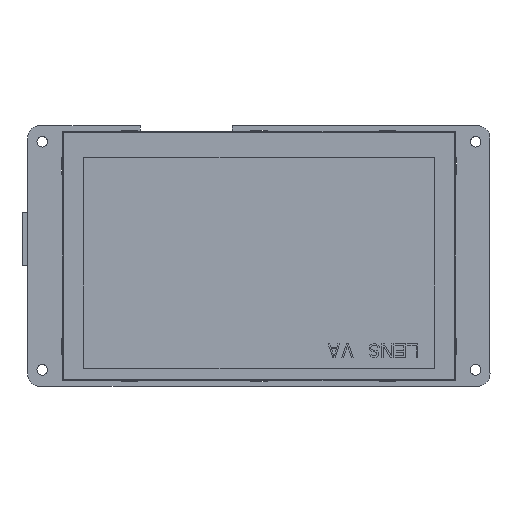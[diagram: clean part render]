
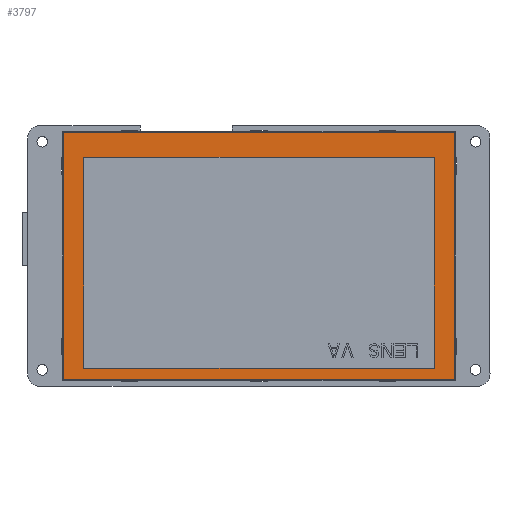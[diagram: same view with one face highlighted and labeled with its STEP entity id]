
A CAD part, front view. The second image highlights one B-rep face of the part: STEP entity #3797.
In plain terms, the highlighted planar face has unit normal (0, -1, 0) as drawn and (0, 1, 0) by its records, which use the part's own axes.
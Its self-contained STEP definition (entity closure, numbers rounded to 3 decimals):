
#2008=DIRECTION('',(0.,0.,1.));
#2009=VECTOR('',#2008,76.69);
#2010=CARTESIAN_POINT('',(-60.7,2.03,-38.345));
#2011=LINE('',#2010,#2009);
#2012=DIRECTION('',(-1.,0.,0.));
#2013=VECTOR('',#2012,121.4);
#2014=CARTESIAN_POINT('',(60.7,2.03,-38.345));
#2015=LINE('',#2014,#2013);
#2016=DIRECTION('',(0.,0.,-1.));
#2017=VECTOR('',#2016,76.69);
#2018=CARTESIAN_POINT('',(60.7,2.03,38.345));
#2019=LINE('',#2018,#2017);
#2020=DIRECTION('',(1.,0.,0.));
#2021=VECTOR('',#2020,121.4);
#2022=CARTESIAN_POINT('',(-60.7,2.03,38.345));
#2023=LINE('',#2022,#2021);
#2024=DIRECTION('',(0.,0.,1.));
#2025=VECTOR('',#2024,65.4);
#2026=CARTESIAN_POINT('',(-54.35,2.03,-34.745));
#2027=LINE('',#2026,#2025);
#2028=DIRECTION('',(1.,0.,0.));
#2029=VECTOR('',#2028,108.6);
#2030=CARTESIAN_POINT('',(-54.35,2.03,30.655));
#2031=LINE('',#2030,#2029);
#2032=DIRECTION('',(0.,0.,-1.));
#2033=VECTOR('',#2032,65.4);
#2034=CARTESIAN_POINT('',(54.25,2.03,30.655));
#2035=LINE('',#2034,#2033);
#2036=DIRECTION('',(-1.,0.,0.));
#2037=VECTOR('',#2036,108.6);
#2038=CARTESIAN_POINT('',(54.25,2.03,-34.745));
#2039=LINE('',#2038,#2037);
#3280=CARTESIAN_POINT('',(-60.7,2.03,-38.345));
#3281=CARTESIAN_POINT('',(-60.7,2.03,38.345));
#3282=VERTEX_POINT('',#3280);
#3283=VERTEX_POINT('',#3281);
#3284=CARTESIAN_POINT('',(60.7,2.03,38.345));
#3285=VERTEX_POINT('',#3284);
#3286=CARTESIAN_POINT('',(60.7,2.03,-38.345));
#3287=VERTEX_POINT('',#3286);
#3496=CARTESIAN_POINT('',(-54.35,2.03,-34.745));
#3497=CARTESIAN_POINT('',(-54.35,2.03,30.655));
#3498=VERTEX_POINT('',#3496);
#3499=VERTEX_POINT('',#3497);
#3500=CARTESIAN_POINT('',(54.25,2.03,30.655));
#3501=VERTEX_POINT('',#3500);
#3502=CARTESIAN_POINT('',(54.25,2.03,-34.745));
#3503=VERTEX_POINT('',#3502);
#3776=CARTESIAN_POINT('',(0.,2.03,0.));
#3777=DIRECTION('',(0.,1.,0.));
#3778=DIRECTION('',(1.,0.,0.));
#3779=AXIS2_PLACEMENT_3D('',#3776,#3777,#3778);
#3780=PLANE('',#3779);
#3781=ORIENTED_EDGE('',*,*,#3728,.F.);
#3782=ORIENTED_EDGE('',*,*,#3743,.F.);
#3783=ORIENTED_EDGE('',*,*,#3757,.F.);
#3784=ORIENTED_EDGE('',*,*,#3770,.F.);
#3785=EDGE_LOOP('',(#3781,#3782,#3783,#3784));
#3786=FACE_OUTER_BOUND('',#3785,.F.);
#3788=ORIENTED_EDGE('',*,*,#3787,.T.);
#3790=ORIENTED_EDGE('',*,*,#3789,.T.);
#3792=ORIENTED_EDGE('',*,*,#3791,.T.);
#3794=ORIENTED_EDGE('',*,*,#3793,.T.);
#3795=EDGE_LOOP('',(#3788,#3790,#3792,#3794));
#3796=FACE_BOUND('',#3795,.F.);
#3728=EDGE_CURVE('',#3282,#3283,#2011,.T.);
#3743=EDGE_CURVE('',#3287,#3282,#2015,.T.);
#3757=EDGE_CURVE('',#3285,#3287,#2019,.T.);
#3770=EDGE_CURVE('',#3283,#3285,#2023,.T.);
#3787=EDGE_CURVE('',#3498,#3499,#2027,.T.);
#3789=EDGE_CURVE('',#3499,#3501,#2031,.T.);
#3791=EDGE_CURVE('',#3501,#3503,#2035,.T.);
#3793=EDGE_CURVE('',#3503,#3498,#2039,.T.);
#3797=ADVANCED_FACE('',(#3786,#3796),#3780,.T.);
